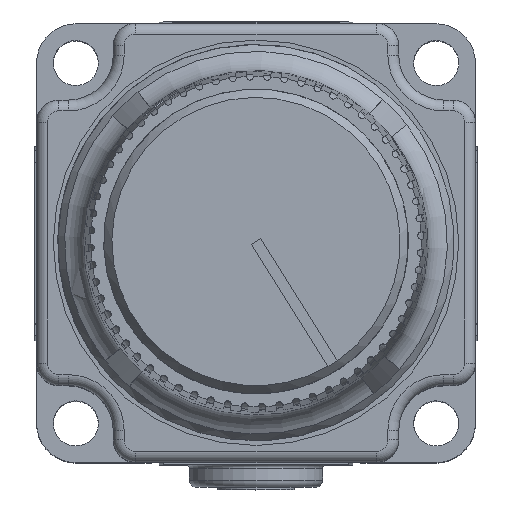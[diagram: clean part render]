
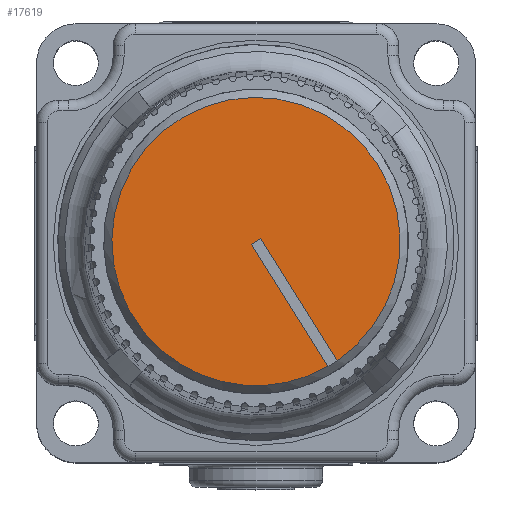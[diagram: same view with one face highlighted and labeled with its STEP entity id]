
A CAD part, top view. The second image highlights one B-rep face of the part: STEP entity #17619.
In plain terms, the highlighted planar face has unit normal (0, 0, 1).
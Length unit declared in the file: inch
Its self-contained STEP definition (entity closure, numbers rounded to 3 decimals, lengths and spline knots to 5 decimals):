
#1771=LINE('',#34571,#2955);
#1776=LINE('',#34590,#2960);
#1779=LINE('',#34595,#2963);
#2955=VECTOR('',#23776,0.3937);
#2960=VECTOR('',#23787,0.3937);
#2963=VECTOR('',#23792,0.3937);
#4141=FACE_OUTER_BOUND('',#5201,.T.);
#5201=EDGE_LOOP('',(#14150,#14151,#14152,#14153,#14154));
#6061=CIRCLE('',#19417,0.4);
#6062=CIRCLE('',#19418,0.4);
#7552=VERTEX_POINT('',#34569);
#7553=VERTEX_POINT('',#34570);
#7556=VERTEX_POINT('',#34583);
#7558=VERTEX_POINT('',#34589);
#7560=VERTEX_POINT('',#34599);
#9796=EDGE_CURVE('',#7552,#7553,#1771,.T.);
#9803=EDGE_CURVE('',#7558,#7556,#1776,.T.);
#9806=EDGE_CURVE('',#7553,#7558,#1779,.T.);
#9808=EDGE_CURVE('',#7556,#7560,#6061,.T.);
#9809=EDGE_CURVE('',#7560,#7552,#6062,.T.);
#14150=ORIENTED_EDGE('',*,*,#9803,.T.);
#14151=ORIENTED_EDGE('',*,*,#9808,.T.);
#14152=ORIENTED_EDGE('',*,*,#9809,.T.);
#14153=ORIENTED_EDGE('',*,*,#9796,.T.);
#14154=ORIENTED_EDGE('',*,*,#9806,.T.);
#15806=PLANE('',#19421);
#17619=ADVANCED_FACE('',(#4141),#15806,.T.);
#19417=AXIS2_PLACEMENT_3D('',#34600,#23798,#23799);
#19418=AXIS2_PLACEMENT_3D('',#34601,#23800,#23801);
#19421=AXIS2_PLACEMENT_3D('',#34607,#23807,#23808);
#23776=DIRECTION('',(-0.532,0.847,0.));
#23787=DIRECTION('',(0.532,-0.847,0.));
#23792=DIRECTION('',(0.847,0.532,0.));
#23798=DIRECTION('center_axis',(0.,0.,1.));
#23799=DIRECTION('ref_axis',(0.847,0.532,0.));
#23800=DIRECTION('center_axis',(0.,0.,1.));
#23801=DIRECTION('ref_axis',(0.847,0.532,0.));
#23807=DIRECTION('center_axis',(0.,0.,1.));
#23808=DIRECTION('ref_axis',(1.,0.,0.));
#34569=CARTESIAN_POINT('',(0.02319,-0.37988,1.8705));
#34570=CARTESIAN_POINT('',(-0.1893,-0.04132,1.8705));
#34571=CARTESIAN_POINT('',(0.02319,-0.37988,1.8705));
#34583=CARTESIAN_POINT('',(0.0486,-0.36393,1.8705));
#34589=CARTESIAN_POINT('',(-0.16389,-0.02537,1.8705));
#34590=CARTESIAN_POINT('',(-0.16389,-0.02537,1.8705));
#34595=CARTESIAN_POINT('',(-0.1893,-0.04132,1.8705));
#34599=CARTESIAN_POINT('',(-0.32875,-0.40327,1.8705));
#34600=CARTESIAN_POINT('Origin',(-0.1766,-0.03334,
1.8705));
#34601=CARTESIAN_POINT('Origin',(-0.1766,-0.03334,
1.8705));
#34607=CARTESIAN_POINT('Origin',(-0.52537,-0.24918,
1.8705));
